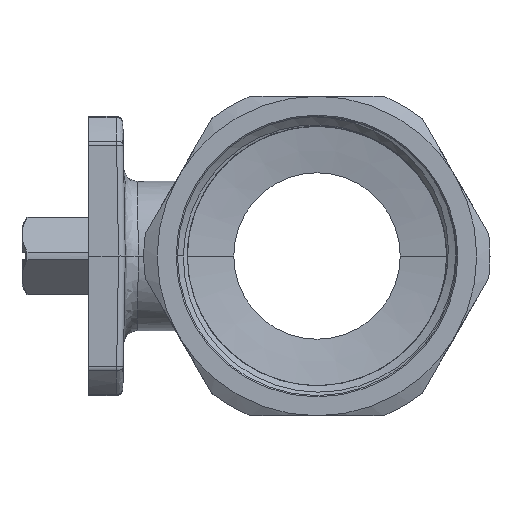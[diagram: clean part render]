
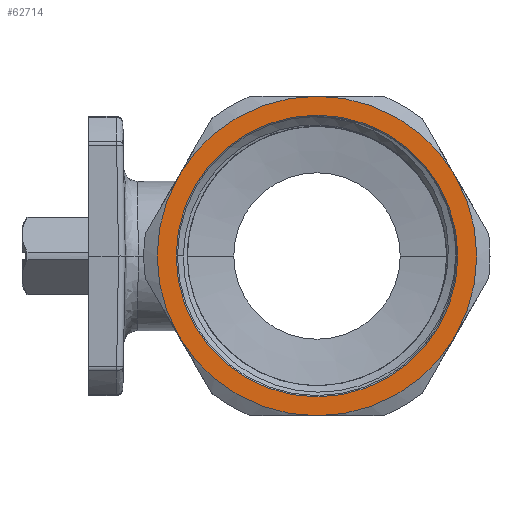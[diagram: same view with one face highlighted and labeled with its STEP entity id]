
A CAD part, left-side view. The second image highlights one B-rep face of the part: STEP entity #62714.
In plain terms, the highlighted planar face has unit normal (-1, 0, 0) as drawn and (1, 0, 0) by its records, which use the part's own axes.
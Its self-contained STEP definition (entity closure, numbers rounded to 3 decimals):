
#59080=CARTESIAN_POINT('',(27.,0.,0.));
#59081=DIRECTION('',(1.,0.,0.));
#59082=DIRECTION('',(0.,0.866,-0.5));
#59083=AXIS2_PLACEMENT_3D('',#59080,#59081,#59082);
#59142=CARTESIAN_POINT('',(27.,0.,0.));
#59143=DIRECTION('',(1.,0.,0.));
#59144=DIRECTION('',(0.,-0.866,0.5));
#59145=AXIS2_PLACEMENT_3D('',#59142,#59143,#59144);
#59171=CARTESIAN_POINT('',(27.,-20.785,
-12.));
#59201=CARTESIAN_POINT('',(27.,0.,
-24.));
#59229=CARTESIAN_POINT('',(27.,0.,0.));
#59230=DIRECTION('',(-1.,0.,0.));
#59231=DIRECTION('',(0.,0.866,-0.5));
#59232=AXIS2_PLACEMENT_3D('',#59229,#59230,#59231);
#59234=CARTESIAN_POINT('',(27.,0.,0.));
#59235=DIRECTION('',(-1.,0.,0.));
#59236=DIRECTION('',(0.,0.,-1.));
#59237=AXIS2_PLACEMENT_3D('',#59234,#59235,#59236);
#59239=CARTESIAN_POINT('',(27.,0.,0.));
#59240=DIRECTION('',(1.,0.,0.));
#59241=DIRECTION('',(0.,0.,1.));
#59242=AXIS2_PLACEMENT_3D('',#59239,#59240,#59241);
#59244=CARTESIAN_POINT('',(27.,0.,0.));
#59245=DIRECTION('',(1.,0.,0.));
#59246=DIRECTION('',(0.,0.866,0.5));
#59247=AXIS2_PLACEMENT_3D('',#59244,#59245,#59246);
#59283=CARTESIAN_POINT('',(27.,0.,0.));
#59284=DIRECTION('',(1.,0.,0.));
#59285=DIRECTION('',(0.,1.,0.));
#59286=AXIS2_PLACEMENT_3D('',#59283,#59284,#59285);
#59428=CARTESIAN_POINT('',(27.,0.,0.));
#59429=DIRECTION('',(-1.,0.,0.));
#59430=DIRECTION('',(0.,1.,0.));
#59431=AXIS2_PLACEMENT_3D('',#59428,#59429,#59430);
#61639=CARTESIAN_POINT('',(27.,20.785,12.));
#61669=CARTESIAN_POINT('',(27.,0.,
24.));
#61699=CARTESIAN_POINT('',(27.,-20.785,
12.));
#61891=CARTESIAN_POINT('',(27.,20.785,
-12.));
#62110=CARTESIAN_POINT('',(27.,21.15,0.));
#62111=CARTESIAN_POINT('',(27.,-21.15,0.));
#62112=VERTEX_POINT('',#62110);
#62113=VERTEX_POINT('',#62111);
#62119=VERTEX_POINT('',#61639);
#62126=VERTEX_POINT('',#61669);
#62133=VERTEX_POINT('',#61699);
#62136=VERTEX_POINT('',#59171);
#62143=VERTEX_POINT('',#59201);
#62150=VERTEX_POINT('',#61891);
#62695=CARTESIAN_POINT('',(27.,0.,0.));
#62696=DIRECTION('',(-1.,0.,0.));
#62697=DIRECTION('',(0.,1.,0.));
#62698=AXIS2_PLACEMENT_3D('',#62695,#62696,#62697);
#62699=PLANE('',#62698);
#62700=ORIENTED_EDGE('',*,*,#62528,.F.);
#62701=ORIENTED_EDGE('',*,*,#62682,.T.);
#62702=ORIENTED_EDGE('',*,*,#62510,.T.);
#62703=ORIENTED_EDGE('',*,*,#62588,.F.);
#62704=ORIENTED_EDGE('',*,*,#62570,.F.);
#62705=ORIENTED_EDGE('',*,*,#62550,.F.);
#62706=EDGE_LOOP('',(#62700,#62701,#62702,#62703,#62704,#62705));
#62707=FACE_OUTER_BOUND('',#62706,.F.);
#62709=ORIENTED_EDGE('',*,*,#62708,.T.);
#62711=ORIENTED_EDGE('',*,*,#62710,.F.);
#62712=EDGE_LOOP('',(#62709,#62711));
#62713=FACE_BOUND('',#62712,.F.);
#59084=CIRCLE('',#59083,24.);
#59146=CIRCLE('',#59145,24.);
#59233=CIRCLE('',#59232,24.);
#59238=CIRCLE('',#59237,24.);
#59243=CIRCLE('',#59242,24.);
#59248=CIRCLE('',#59247,24.);
#59287=CIRCLE('',#59286,21.15);
#59432=CIRCLE('',#59431,21.15);
#62510=EDGE_CURVE('',#62143,#62136,#59238,.T.);
#62528=EDGE_CURVE('',#62150,#62119,#59084,.T.);
#62550=EDGE_CURVE('',#62119,#62126,#59248,.T.);
#62570=EDGE_CURVE('',#62126,#62133,#59243,.T.);
#62588=EDGE_CURVE('',#62133,#62136,#59146,.T.);
#62682=EDGE_CURVE('',#62150,#62143,#59233,.T.);
#62708=EDGE_CURVE('',#62112,#62113,#59287,.T.);
#62710=EDGE_CURVE('',#62112,#62113,#59432,.T.);
#62714=ADVANCED_FACE('',(#62707,#62713),#62699,.F.);
